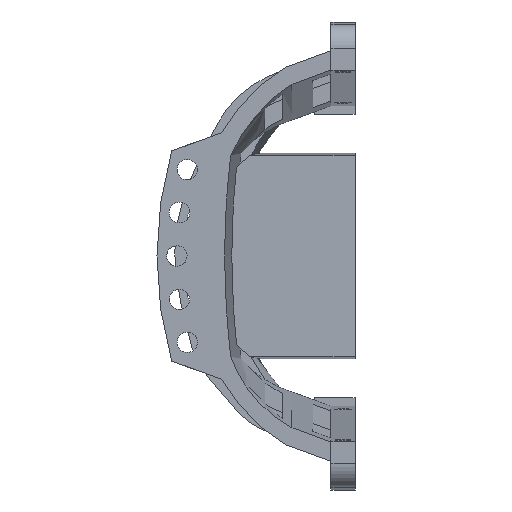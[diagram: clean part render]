
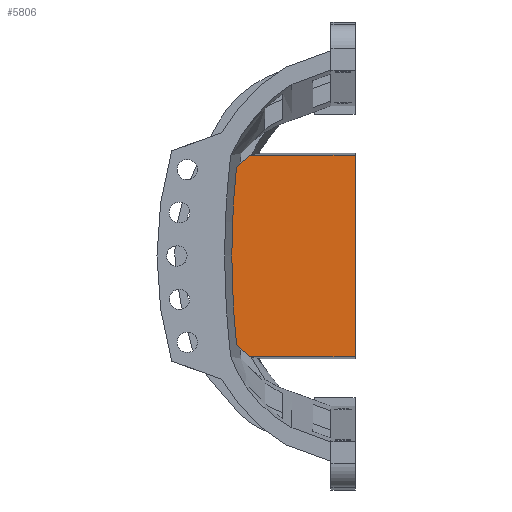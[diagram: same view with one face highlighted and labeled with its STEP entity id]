
A CAD part, left-side view. The second image highlights one B-rep face of the part: STEP entity #5806.
In plain terms, the highlighted planar face has unit normal (-1, 0, 0).
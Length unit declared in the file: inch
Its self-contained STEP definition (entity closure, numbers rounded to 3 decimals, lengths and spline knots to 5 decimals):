
#580=FACE_OUTER_BOUND('',#924,.T.);
#924=EDGE_LOOP('',(#5251,#5252,#5253,#5254,#5255,#5256,#5257));
#1031=CIRCLE('',#6157,7.03378);
#1039=CIRCLE('',#6182,7.5239);
#1301=LINE('',#10696,#1898);
#1307=LINE('',#10779,#1904);
#1311=LINE('',#10802,#1908);
#1315=LINE('',#10814,#1912);
#1611=LINE('',#11928,#2208);
#1898=VECTOR('',#6853,0.3937);
#1904=VECTOR('',#6871,0.3937);
#1908=VECTOR('',#6875,0.3937);
#1912=VECTOR('',#6881,0.3937);
#2208=VECTOR('',#7475,0.3937);
#2525=VERTEX_POINT('',#10690);
#2526=VERTEX_POINT('',#10695);
#2539=VERTEX_POINT('',#10778);
#2541=VERTEX_POINT('',#10799);
#2542=VERTEX_POINT('',#10801);
#2545=VERTEX_POINT('',#10812);
#2762=VERTEX_POINT('',#11491);
#3220=EDGE_CURVE('',#2525,#2526,#1301,.T.);
#3236=EDGE_CURVE('',#2539,#2526,#1307,.T.);
#3240=EDGE_CURVE('',#2541,#2542,#1311,.T.);
#3245=EDGE_CURVE('',#2545,#2541,#1315,.T.);
#3556=EDGE_CURVE('',#2762,#2525,#1031,.T.);
#3598=EDGE_CURVE('',#2545,#2539,#1611,.T.);
#3601=EDGE_CURVE('',#2542,#2762,#1039,.T.);
#5251=ORIENTED_EDGE('',*,*,#3220,.F.);
#5252=ORIENTED_EDGE('',*,*,#3556,.F.);
#5253=ORIENTED_EDGE('',*,*,#3601,.F.);
#5254=ORIENTED_EDGE('',*,*,#3240,.F.);
#5255=ORIENTED_EDGE('',*,*,#3245,.F.);
#5256=ORIENTED_EDGE('',*,*,#3598,.T.);
#5257=ORIENTED_EDGE('',*,*,#3236,.T.);
#5505=PLANE('',#6183);
#5806=ADVANCED_FACE('',(#580),#5505,.T.);
#6157=AXIS2_PLACEMENT_3D('',#11493,#7409,#7410);
#6182=AXIS2_PLACEMENT_3D('',#11950,#7485,#7486);
#6183=AXIS2_PLACEMENT_3D('',#11951,#7487,#7488);
#6853=DIRECTION('',(0.,-0.746,0.666));
#6871=DIRECTION('',(0.,1.,0.));
#6875=DIRECTION('',(0.,0.745,0.668));
#6881=DIRECTION('',(0.,1.,0.));
#7409=DIRECTION('center_axis',(1.,0.,0.));
#7410=DIRECTION('ref_axis',(0.,0.994,0.105));
#7475=DIRECTION('',(0.,0.,1.));
#7485=DIRECTION('center_axis',(1.,0.,0.));
#7486=DIRECTION('ref_axis',(0.,1.,-0.004));
#7487=DIRECTION('center_axis',(-1.,0.,0.));
#7488=DIRECTION('ref_axis',(0.,0.,
1.));
#10690=CARTESIAN_POINT('',(-5.1,0.7862,0.73781));
#10695=CARTESIAN_POINT('',(-5.1,0.67499,0.83718));
#10696=CARTESIAN_POINT('',(-5.1,0.7862,0.73781));
#10778=CARTESIAN_POINT('',(-5.1,-0.2,0.83718));
#10779=CARTESIAN_POINT('',(-5.1,-0.26,0.83718));
#10799=CARTESIAN_POINT('',(-5.1,0.67499,-0.83718));
#10801=CARTESIAN_POINT('',(-5.1,0.78586,-0.73777));
#10802=CARTESIAN_POINT('',(-5.1,0.67499,-0.83718));
#10812=CARTESIAN_POINT('',(-5.1,-0.2,-0.83718));
#10814=CARTESIAN_POINT('',(-5.1,-0.26,-0.83718));
#11491=CARTESIAN_POINT('',(-5.1,0.825,-0.00001));
#11493=CARTESIAN_POINT('Origin',(-5.1,-6.20878,0.));
#11928=CARTESIAN_POINT('',(-5.1,-0.2,-1.011));
#11950=CARTESIAN_POINT('Origin',(-5.1,-6.69884,0.02927));
#11951=CARTESIAN_POINT('Origin',(-5.1,-0.26,-0.00001));
